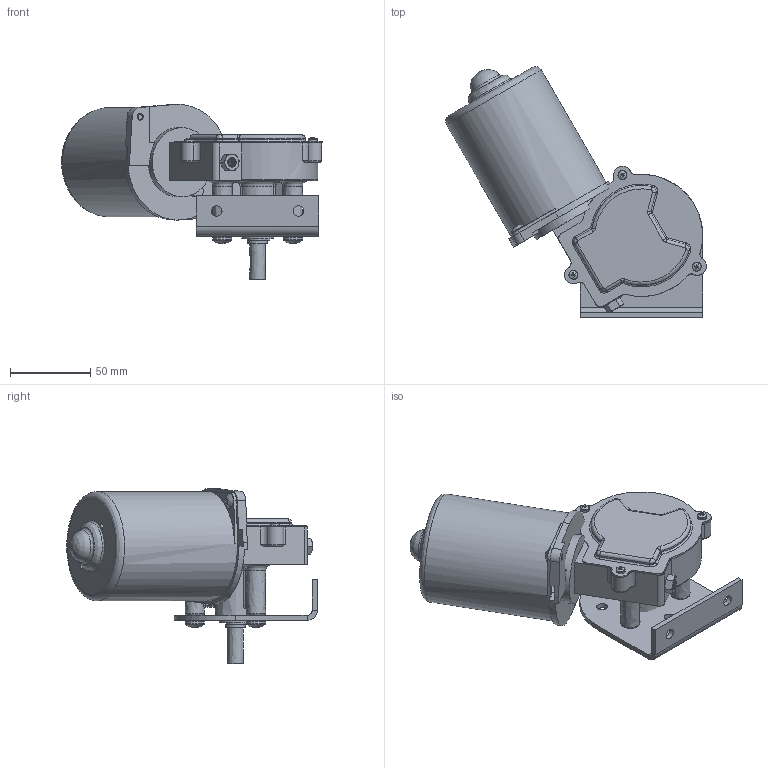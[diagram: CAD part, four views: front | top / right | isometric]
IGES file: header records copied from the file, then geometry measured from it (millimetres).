
Global section: file name: PN01007-38LB_RIGHT; native system: unknown; preprocessor: unknown; author: unknown; organization: unknown; date: 20210719.112633; units: inch
Bounding box: 162.19 x 155.81 x 108.98 mm (x, y, z)
Volume: 176495.2 mm3; surface area: 132593.8 mm2
Topology: 17 solids, 17 shells, 905 faces, 2582 edges, 1732 vertices
Faces by surface type: bspline 905
